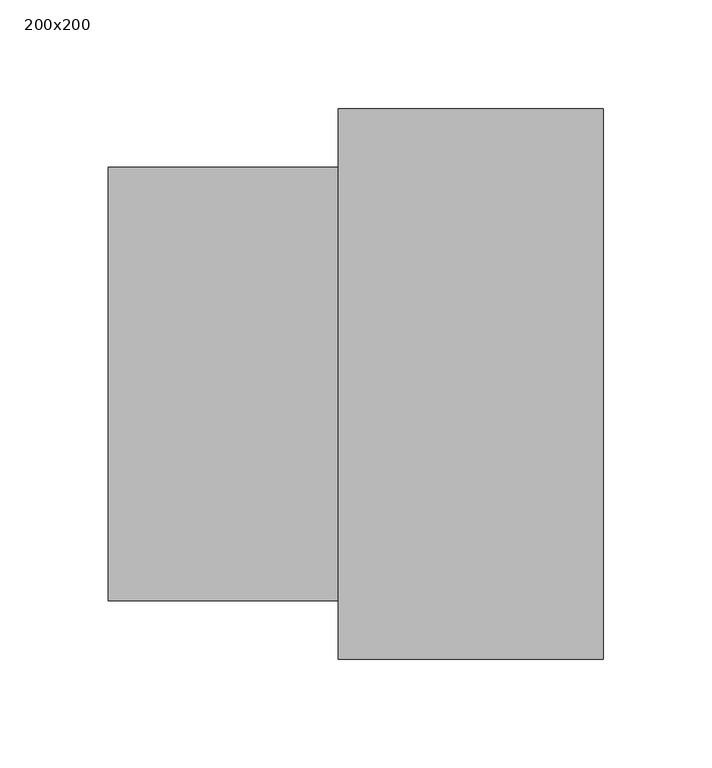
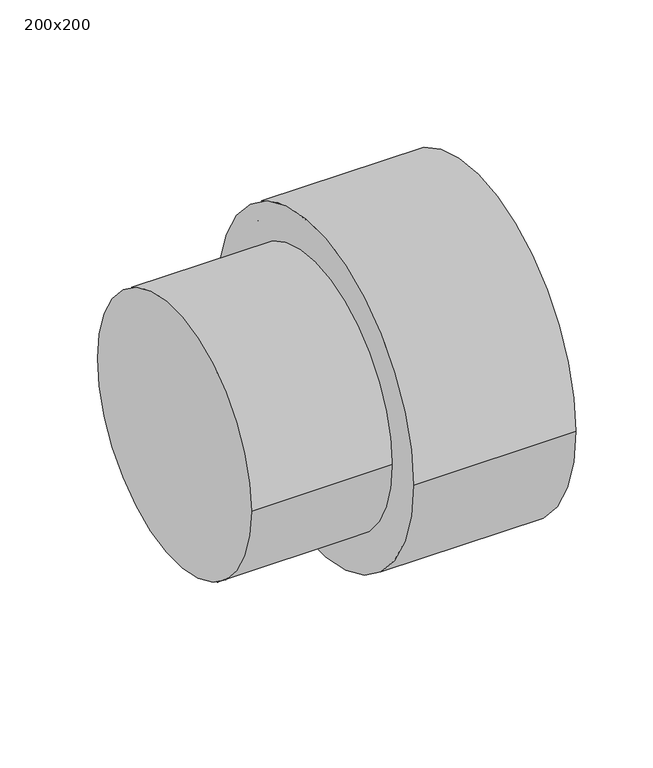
"""IFC4 building model written with IfcOpenShell, lengths in millimetres: pipe fitting geometry, Pipelife - Pragma +ID - Adaptor kanalizacyjny kielich : 200x200."""

from ifc_helpers import new_model, si_unit, point, frame, origin, origin_2d, place, context, project, spatial, polyline, circle_curve, trimmed, segment, composite_curve, outline, extrude, source, transform, mapped, element, save
from ifc_brep_helpers import plane_surface, cylinder_surface, revolved_surface, advanced_brep


def pipe_fitting_200x200_617974e3(model_context):
    return source(origin(), model_context, "Body", "SolidModel", [
        advanced_brep(
        [(-4.0, -127.0, 0.0), (-4.0, 127.0, 0.0), (118.0, -127.0, 0.0), (118.0, 127.0, 0.0), (118.0, -115.5, 0.0), (118.0, 115.5, 0.0), (0.0, -115.5, 0.0), (0.0, 115.5, 0.0)],
        [
            (0, 1, circle_curve(frame((-4.0, 0.0, 0.0), z_axis=(-1.0, 0.0, 0.0), x_axis=(0.0, 1.0, 0.0)), 127.0)),
            (1, 0, circle_curve(frame((-4.0, 0.0, 0.0), z_axis=(-1.0, 0.0, 0.0), x_axis=(0.0, 1.0, 0.0)), 127.0)),
            (2, 3, circle_curve(frame((118.0, 0.0, 0.0), z_axis=(1.0, 0.0, 0.0), x_axis=(0.0, 1.0, 0.0)), 127.0)),
            (3, 2, circle_curve(frame((118.0, 0.0, 0.0), z_axis=(1.0, 0.0, 0.0), x_axis=(0.0, 1.0, 0.0)), 127.0)),
            (4, 5, circle_curve(frame((118.0, 0.0, 0.0), z_axis=(-1.0, 0.0, 0.0), x_axis=(0.0, 1.0, 0.0)), 115.5)),
            (5, 4, circle_curve(frame((118.0, 0.0, 0.0), z_axis=(-1.0, 0.0, 0.0), x_axis=(0.0, 1.0, 0.0)), 115.5)),
            (0, 2),
            (3, 1),
            (6, 7, circle_curve(frame((0.0, 0.0, 0.0), z_axis=(1.0, 0.0, 0.0), x_axis=(0.0, 1.0, 0.0)), 115.5)),
            (7, 6, circle_curve(frame((0.0, 0.0, 0.0), z_axis=(1.0, 0.0, 0.0), x_axis=(0.0, 1.0, 0.0)), 115.5)),
            (7, 5),
            (4, 6),
        ],
        [
            plane_surface(frame((-4.0, 0.0, 0.0), z_axis=(-1.0, 0.0, 0.0), x_axis=(0.0, 0.0, 1.0))),
            plane_surface(frame((118.0, 0.0, 0.0), z_axis=(1.0, 0.0, 0.0), x_axis=(0.0, 0.0, 1.0))),
            cylinder_surface(frame((-4.0, 0.0, 0.0), z_axis=(-1.0, 0.0, 0.0), x_axis=(0.0, 1.0, 0.0)), 127.0),
            plane_surface(frame((0.0, 0.0, 0.0), z_axis=(1.0, 0.0, 0.0), x_axis=(0.0, 0.0, 1.0))),
            revolved_surface(polyline([(0.0, 115.5, 0.0), (118.0, 115.5, 0.0)]), (0.0, 0.0, 0.0), (-1.0, 0.0, 0.0)),
        ],
        [
            (0, [[1, 2]]),
            (1, [[3, 4], [5, 6]]),
            (2, [[-1, 7, -4, 8]]),
            (2, [[-2, -8, -3, -7]]),
            (3, [[9, 10]]),
            (4, [[-10, 11, -5, 12]]),
            (4, [[-9, -12, -6, -11]]),
        ],
    ),
        extrude(outline(composite_curve([segment(trimmed(circle_curve(origin_2d(), 100.0), [point((-100.0, 0.0))], [point((100.0, 0.0))], False, "CARTESIAN"), True, "CONTINUOUS"), segment(trimmed(circle_curve(origin_2d(), 100.0), [point((100.0, 0.0))], [point((-100.0, 0.0))], False, "CARTESIAN"), True, "CONTINUOUS")], self_intersect=False)), frame((-110.0, 0.0, 0.0), z_axis=(1.0, 0.0, 0.0), x_axis=(0.0, 1.0, 0.0)), (0.0, 0.0, 1.0), 106.0),
    ])


if __name__ == "__main__":
    model = new_model("IFC4")
    model_context = context("Model", 3, world=origin())
    ifc_project = project(units=[si_unit("LENGTHUNIT", "METRE", prefix="MILLI")], contexts=[model_context])
    site = spatial("IfcSite", under=ifc_project)
    building = spatial("IfcBuilding", under=site)
    placement = place(None, origin())
    pipe_fitting_200x200_shape = pipe_fitting_200x200_617974e3(model_context)
    element("IfcPipeFitting", 1, ObjectType="Pipelife - Pragma +ID - Adaptor kanalizacyjny kielich : 200x200", at=placement, inside=building, context=model_context, shape_type="MappedRepresentation", body=[
        mapped(pipe_fitting_200x200_shape, transform((0.0, 0.0, 0.0), x_axis=(1.0, 0.0, 0.0), y_axis=(0.0, 1.0, 0.0), z_axis=(0.0, 0.0, 1.0))),
    ])
    save(model, "model.ifc")
